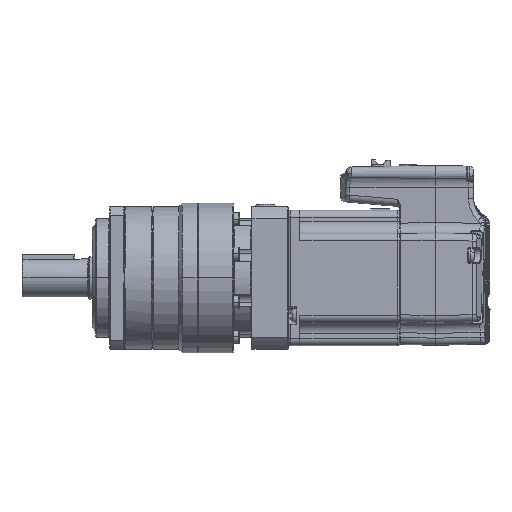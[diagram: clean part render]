
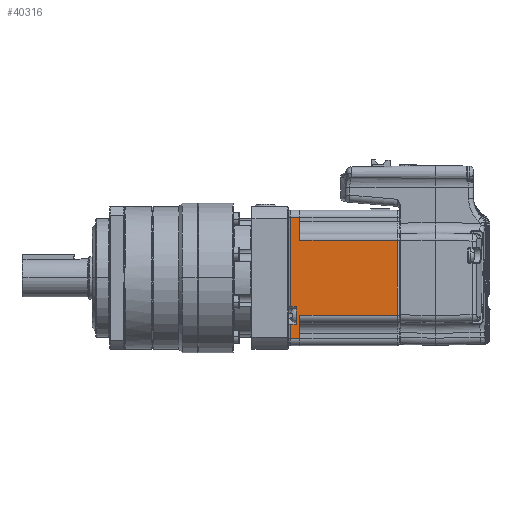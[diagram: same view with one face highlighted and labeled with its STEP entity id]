
A CAD part, left-side view. The second image highlights one B-rep face of the part: STEP entity #40316.
In plain terms, the highlighted planar face has unit normal (-1, 0, 0).
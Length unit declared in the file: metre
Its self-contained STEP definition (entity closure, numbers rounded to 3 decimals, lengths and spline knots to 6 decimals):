
#7459 = CARTESIAN_POINT ( 'NONE',  ( -0.203673, 0.042, -0.0285 ) ) ;
#7471 = DIRECTION ( 'NONE',  ( 0., 0., 1. ) ) ;
#21765 = EDGE_CURVE ( 'NONE', #76781, #76875, #24569, .T. ) ;
#21769 = EDGE_CURVE ( 'NONE', #83914, #76781, #24579, .T. ) ;
#21773 = EDGE_CURVE ( 'NONE', #83914, #76864, #24573, .T. ) ;
#24035 = EDGE_CURVE ( 'NONE', #76864, #76863, #34133, .T. ) ;
#24435 = EDGE_CURVE ( 'NONE', #76820, #76876, #150814, .T. ) ;
#24569 = LINE ( 'NONE', #84224, #24577 ) ;
#24573 = LINE ( 'NONE', #84253, #24592 ) ;
#24577 = VECTOR ( 'NONE', #84226, 1. ) ;
#24579 = LINE ( 'NONE', #84242, #24584 ) ;
#24584 = VECTOR ( 'NONE', #84238, 1. ) ;
#24592 = VECTOR ( 'NONE', #84249, 1. ) ;
#24610 = EDGE_CURVE ( 'NONE', #76812, #76867, #150925, .T. ) ;
#24619 = EDGE_CURVE ( 'NONE', #76865, #76820, #150930, .T. ) ;
#24853 = EDGE_CURVE ( 'NONE', #76863, #76812, #151086, .T. ) ;
#24857 = EDGE_CURVE ( 'NONE', #76867, #76868, #151076, .T. ) ;
#24865 = EDGE_CURVE ( 'NONE', #76876, #76875, #151096, .T. ) ;
#24930 = EDGE_CURVE ( 'NONE', #76874, #76865, #151141, .T. ) ;
#24966 = EDGE_CURVE ( 'NONE', #76868, #76874, #151172, .T. ) ;
#34133 = LINE ( 'NONE', #7459, #34151 ) ;
#34151 = VECTOR ( 'NONE', #7471, 1. ) ;
#40316 = ADVANCED_FACE ( 'NONE', ( #140644 ), #139599, .T. ) ;
#51567 = CARTESIAN_POINT ( 'NONE',  ( -0.203673, 0.001, 0.01577 ) ) ;
#54626 = CARTESIAN_POINT ( 'NONE',  ( -0.203673, 0.001, -0.01577 ) ) ;
#54686 = CARTESIAN_POINT ( 'NONE',  ( -0.203673, 0.046, 0.0255 ) ) ;
#54702 = CARTESIAN_POINT ( 'NONE',  ( -0.203673, 0.046, -0.0255 ) ) ;
#54788 = CARTESIAN_POINT ( 'NONE',  ( -0.203673, 0.042, 0.0255 ) ) ;
#54790 = CARTESIAN_POINT ( 'NONE',  ( -0.203673, 0.042, 0.01577 ) ) ;
#54792 = CARTESIAN_POINT ( 'NONE',  ( -0.203673, 0.046, -0.0196 ) ) ;
#54796 = CARTESIAN_POINT ( 'NONE',  ( -0.203673, 0.046, -0.0122 ) ) ;
#54798 = CARTESIAN_POINT ( 'NONE',  ( -0.203673, 0.0435, -0.0122 ) ) ;
#54810 = CARTESIAN_POINT ( 'NONE',  ( -0.203673, 0.0435, -0.0196 ) ) ;
#54812 = CARTESIAN_POINT ( 'NONE',  ( -0.203673, 0.042, -0.01577 ) ) ;
#54814 = CARTESIAN_POINT ( 'NONE',  ( -0.203673, 0.042, -0.0255 ) ) ;
#76781 = VERTEX_POINT ( 'NONE', #54626 ) ;
#76812 = VERTEX_POINT ( 'NONE', #54686 ) ;
#76820 = VERTEX_POINT ( 'NONE', #54702 ) ;
#76863 = VERTEX_POINT ( 'NONE', #54788 ) ;
#76864 = VERTEX_POINT ( 'NONE', #54790 ) ;
#76865 = VERTEX_POINT ( 'NONE', #54792 ) ;
#76867 = VERTEX_POINT ( 'NONE', #54796 ) ;
#76868 = VERTEX_POINT ( 'NONE', #54798 ) ;
#76874 = VERTEX_POINT ( 'NONE', #54810 ) ;
#76875 = VERTEX_POINT ( 'NONE', #54812 ) ;
#76876 = VERTEX_POINT ( 'NONE', #54814 ) ;
#79295 = ORIENTED_EDGE ( 'NONE', *, *, #21769, .F. ) ;
#79298 = ORIENTED_EDGE ( 'NONE', *, *, #21773, .T. ) ;
#79300 = ORIENTED_EDGE ( 'NONE', *, *, #24035, .T. ) ;
#79302 = ORIENTED_EDGE ( 'NONE', *, *, #24853, .T. ) ;
#79304 = ORIENTED_EDGE ( 'NONE', *, *, #24610, .T. ) ;
#79306 = ORIENTED_EDGE ( 'NONE', *, *, #24857, .T. ) ;
#79308 = ORIENTED_EDGE ( 'NONE', *, *, #24966, .T. ) ;
#79311 = ORIENTED_EDGE ( 'NONE', *, *, #24930, .T. ) ;
#79313 = ORIENTED_EDGE ( 'NONE', *, *, #24619, .T. ) ;
#79315 = ORIENTED_EDGE ( 'NONE', *, *, #24435, .T. ) ;
#79317 = ORIENTED_EDGE ( 'NONE', *, *, #24865, .T. ) ;
#79319 = ORIENTED_EDGE ( 'NONE', *, *, #21765, .F. ) ;
#83914 = VERTEX_POINT ( 'NONE', #51567 ) ;
#84224 = CARTESIAN_POINT ( 'NONE',  ( -0.203673, 0., -0.01577 ) ) ;
#84226 = DIRECTION ( 'NONE',  ( 0., 1., 0. ) ) ;
#84238 = DIRECTION ( 'NONE',  ( 0., 0., -1. ) ) ;
#84242 = CARTESIAN_POINT ( 'NONE',  ( -0.203673, 0.001, 0.01577 ) ) ;
#84249 = DIRECTION ( 'NONE',  ( 0., 1., 0. ) ) ;
#84253 = CARTESIAN_POINT ( 'NONE',  ( -0.203673, 0., 0.01577 ) ) ;
#98248 = EDGE_LOOP ( 'NONE', ( #79295, #79298, #79300, #79302, #79304, #79306, #79308, #79311, #79313, #79315, #79317, #79319 ) ) ;
#114675 = AXIS2_PLACEMENT_3D ( 'NONE', #139595, #139603, #139604 ) ;
#132950 = CARTESIAN_POINT ( 'NONE',  ( -0.203673, 0., -0.0255 ) ) ;
#132955 = DIRECTION ( 'NONE',  ( 0., -1., 0. ) ) ;
#133926 = CARTESIAN_POINT ( 'NONE',  ( -0.203673, 0.046, -0.0285 ) ) ;
#133931 = DIRECTION ( 'NONE',  ( 0., 0., -1. ) ) ;
#133980 = CARTESIAN_POINT ( 'NONE',  ( -0.203673, 0.046, -0.0285 ) ) ;
#133987 = DIRECTION ( 'NONE',  ( 0., 0., -1. ) ) ;
#134778 = CARTESIAN_POINT ( 'NONE',  ( -0.203673, 0., -0.0122 ) ) ;
#134817 = CARTESIAN_POINT ( 'NONE',  ( -0.203673, 0., 0.0255 ) ) ;
#134820 = DIRECTION ( 'NONE',  ( 0., 1., 0. ) ) ;
#134828 = DIRECTION ( 'NONE',  ( 0., -1., 0. ) ) ;
#134848 = CARTESIAN_POINT ( 'NONE',  ( -0.203673, 0.042, -0.0285 ) ) ;
#134851 = DIRECTION ( 'NONE',  ( 0., 0., 1. ) ) ;
#135047 = CARTESIAN_POINT ( 'NONE',  ( -0.203673, 0., -0.0196 ) ) ;
#135050 = DIRECTION ( 'NONE',  ( 0., 1., 0. ) ) ;
#135141 = CARTESIAN_POINT ( 'NONE',  ( -0.203673, 0.0435, -0.0285 ) ) ;
#135144 = DIRECTION ( 'NONE',  ( 0., 0., -1. ) ) ;
#139595 = CARTESIAN_POINT ( 'NONE',  ( -0.203673, 0., -0.0285 ) ) ;
#139599 = PLANE ( 'NONE',  #114675 ) ;
#139603 = DIRECTION ( 'NONE',  ( -1., 0., 0. ) ) ;
#139604 = DIRECTION ( 'NONE',  ( 0., 0., 1. ) ) ;
#140644 = FACE_OUTER_BOUND ( 'NONE', #98248, .T. ) ;
#150814 = LINE ( 'NONE', #132950, #150820 ) ;
#150820 = VECTOR ( 'NONE', #132955, 1. ) ;
#150918 = VECTOR ( 'NONE', #133987, 1. ) ;
#150925 = LINE ( 'NONE', #133926, #150928 ) ;
#150928 = VECTOR ( 'NONE', #133931, 1. ) ;
#150930 = LINE ( 'NONE', #133980, #150918 ) ;
#151076 = LINE ( 'NONE', #134778, #151092 ) ;
#151086 = LINE ( 'NONE', #134817, #151088 ) ;
#151088 = VECTOR ( 'NONE', #134820, 1. ) ;
#151092 = VECTOR ( 'NONE', #134828, 1. ) ;
#151096 = LINE ( 'NONE', #134848, #151099 ) ;
#151099 = VECTOR ( 'NONE', #134851, 1. ) ;
#151141 = LINE ( 'NONE', #135047, #151144 ) ;
#151144 = VECTOR ( 'NONE', #135050, 1. ) ;
#151172 = LINE ( 'NONE', #135141, #151175 ) ;
#151175 = VECTOR ( 'NONE', #135144, 1. ) ;
